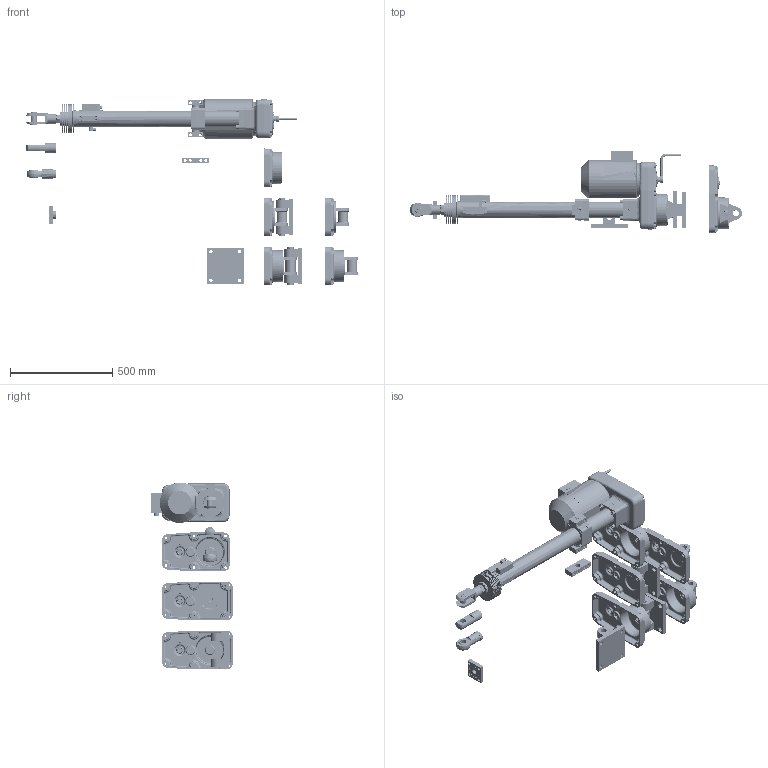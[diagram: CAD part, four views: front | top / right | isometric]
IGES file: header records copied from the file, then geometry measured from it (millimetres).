
Start section: SolidWorks IGES file using analytic representation for surfaces
Global section: file name: D:\ÂÍÓÊÎÂ ÂÑ\ÑÌ\Ñàéò\ÌÝÏ-Ñ3\Êîìïàñ 3D AutoCAD\Êîìïàñ 3D AutoCAD\ÌÝÏ Ñ3 600.IGS; native system: SolidWorks 2012; preprocessor: SolidWorks 2012; author: âíóêîâ; date: 141211.134058; units: millimetre
Bounding box: 1623 x 398.42 x 914 mm (x, y, z)
Surface area: 3238818.5 mm2 (no closed solid volume)
Topology: 0 solids, 0 shells, 4465 faces, 84810 edges, 84665 vertices
Faces by surface type: bspline 2290, revolution 2175
